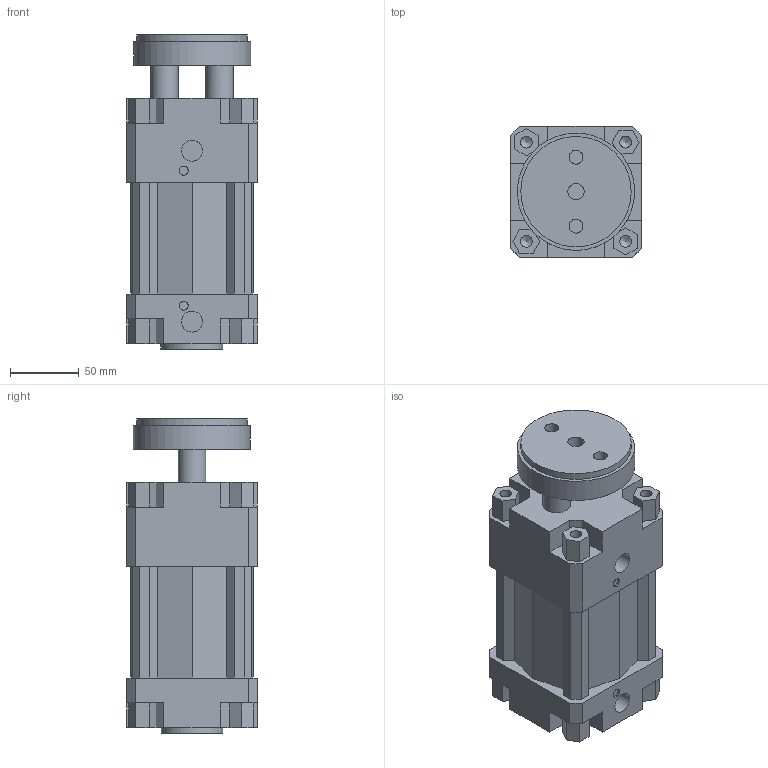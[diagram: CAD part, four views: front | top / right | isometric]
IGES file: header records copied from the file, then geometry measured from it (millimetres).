
Global section: file name: 134#_080_0025_01; native system: Autodesk Inventor 2014; preprocessor: unknown; author: A. Manieri; date: 20161006.165145; units: millimetre
Bounding box: 95 x 95 x 228 mm (x, y, z)
Volume: 1374970.2 mm3; surface area: 194501.2 mm2
Topology: 2 solids, 2 shells, 180 faces, 491 edges, 335 vertices
Faces by surface type: bspline 180
